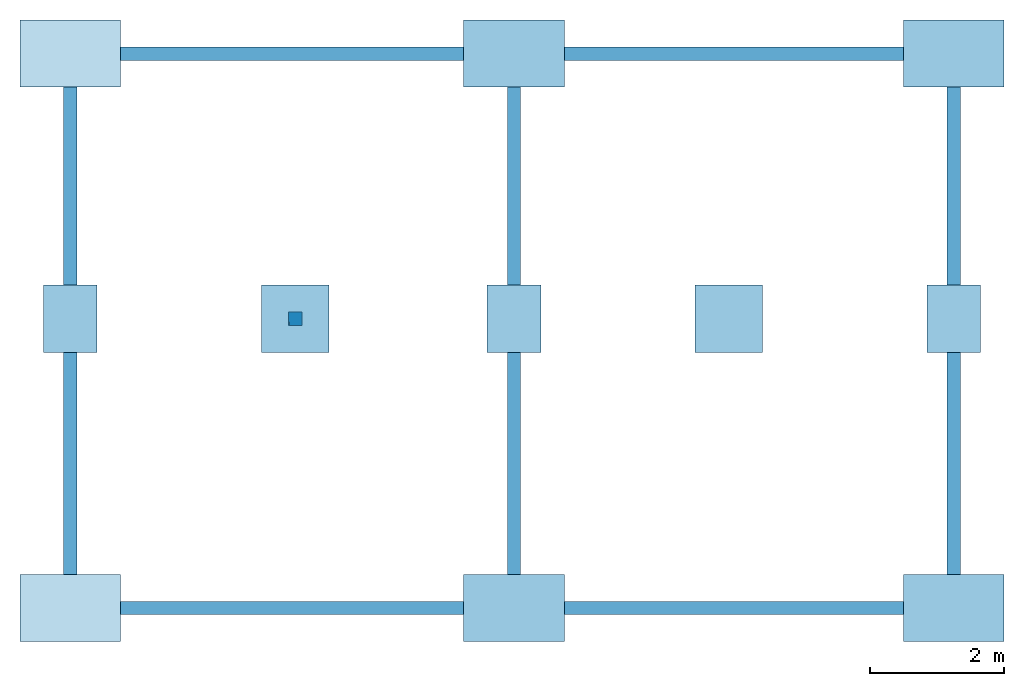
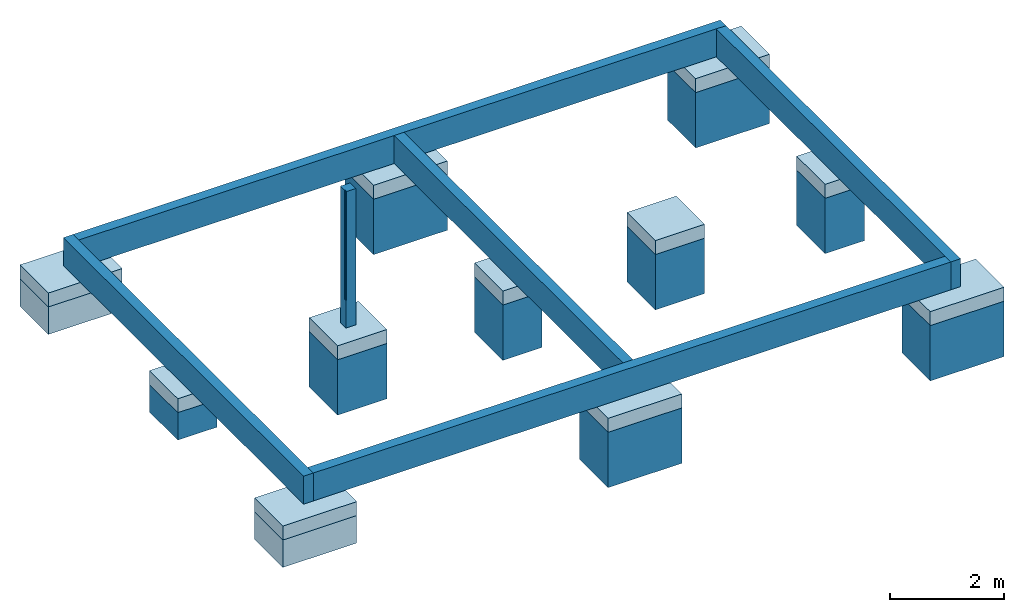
# One storey: 22 slabs, 5 walls, 1 column.
"""IFC2X3 building model written with IfcOpenShell, lengths in millimetres."""

import ifcopenshell
import ifcopenshell.guid

model = None  # the IFC model being written
_history = None  # IfcOwnerHistory: only IFC2X3 demands one
_inside = {}  # id of a spatial element -> (the spatial element, [elements in it])
_under = {}  # id of a project, library or spatial element -> (it, [spatial elements below it])
_declared = {}  # id of a project -> (the project, [libraries it declares])
_typed = {}  # id of a type object -> (the type object, [elements of that type])
_made_of = {}  # id of a material, layer set ... -> (it, [elements and type objects made of it])


def new_model(schema):
    """Start an empty IFC model of exactly this schema.

    Asked for "IFC4X3", IfcOpenShell would pick the latest addendum, in which some entities
    have other attributes; the version numbers below select the first issue.
    IFC2X3 requires an IfcOwnerHistory on every rooted entity: one is made here for all.
    """
    global model, _history
    if schema == "IFC4X3":
        model = ifcopenshell.file(schema_version=(4, 3, 0, 0))
    else:
        model = ifcopenshell.file(schema=schema)
    _inside.clear()
    _under.clear()
    _declared.clear()
    _typed.clear()
    _made_of.clear()
    _history = None
    if model.schema == "IFC2X3":
        org = make("IfcOrganization", Name="unknown")
        user = make(
            "IfcPersonAndOrganization",
            ThePerson=make("IfcPerson", FamilyName="unknown"),
            TheOrganization=org,
        )
        app = make(
            "IfcApplication",
            ApplicationDeveloper=org,
            Version="unknown",
            ApplicationFullName="unknown",
            ApplicationIdentifier="unknown",
        )
        _history = make(
            "IfcOwnerHistory",
            OwningUser=user,
            OwningApplication=app,
            ChangeAction="ADDED",
            CreationDate=0,
        )
    return model


def make(cls, **values):
    """One entity of the class cls with the attributes given. An attribute that is None is left unset."""
    return model.create_entity(
        cls, **{name: value for name, value in values.items() if value is not None}
    )


def entity(cls, *values):
    """Any entity or typed value of the class cls, its attributes in the order of the schema. None: left unset."""
    e = model.create_entity(cls)
    for i, value in enumerate(values):
        if value is not None:
            e[i] = value
    return e


def rooted(cls, **values):
    """An entity with a GlobalId (a new one), such as an element, a storey or a relation."""
    return make(cls, GlobalId=ifcopenshell.guid.new(), OwnerHistory=_history, **values)


def si_unit(unit_type, name, prefix=None):
    """IfcSIUnit, for example si_unit("LENGTHUNIT", "METRE", prefix="MILLI")."""
    return make("IfcSIUnit", UnitType=unit_type, Prefix=prefix, Name=name)


def converted_unit(unit_type, name, factor, base, dimensions=None, offset=None):
    """IfcConversionBasedUnit, such as the inch: factor (a typed value) times the base unit."""
    return make(
        "IfcConversionBasedUnit"
        if offset is None
        else "IfcConversionBasedUnitWithOffset",
        ConversionOffset=offset,
        Dimensions=None
        if dimensions is None
        else entity("IfcDimensionalExponents", *dimensions),
        UnitType=unit_type,
        Name=name,
        ConversionFactor=make(
            "IfcMeasureWithUnit", ValueComponent=factor, UnitComponent=base
        ),
    )


def assignment(units):
    """IfcUnitAssignment: the units of a project."""
    return None if units is None else make("IfcUnitAssignment", Units=units)


def point(xyz):
    """IfcCartesianPoint."""
    return None if xyz is None else make("IfcCartesianPoint", Coordinates=xyz)


def direction(xyz):
    """IfcDirection."""
    return None if xyz is None else make("IfcDirection", DirectionRatios=xyz)


def frame(location, z_axis=None, x_axis=None):
    """IfcAxis2Placement3D, a coordinate frame: its origin and axes. An axis left out is left unset."""
    return make(
        "IfcAxis2Placement3D",
        Location=point(location),
        Axis=direction(z_axis),
        RefDirection=direction(x_axis),
    )


def origin():
    """The frame at (0, 0, 0) with its axes left unset."""
    return frame((0.0, 0.0, 0.0))


def origin_with_axes():
    """The frame at (0, 0, 0) with the z axis (0, 0, 1) and the x axis (1, 0, 0) written out."""
    return frame((0.0, 0.0, 0.0), z_axis=(0.0, 0.0, 1.0), x_axis=(1.0, 0.0, 0.0))


def place(relative_to, where):
    """IfcLocalPlacement: puts the frame where relative to a parent placement (None: the world)."""
    return make(
        "IfcLocalPlacement", PlacementRelTo=relative_to, RelativePlacement=where
    )


def context(
    kind, dimensions, precision=None, world=None, true_north=None, identifier=None
):
    """IfcGeometricRepresentationContext, for example the 3D "Model" context."""
    return make(
        "IfcGeometricRepresentationContext",
        ContextIdentifier=identifier,
        ContextType=kind,
        CoordinateSpaceDimension=dimensions,
        Precision=precision,
        WorldCoordinateSystem=world,
        TrueNorth=true_north,
    )


def project(units=None, contexts=None):
    """IfcProject with its units and contexts."""
    return rooted(
        "IfcProject",
        Name="project",
        RepresentationContexts=contexts,
        UnitsInContext=assignment(units),
    )


def spatial(cls, under=None, at=None, **own):
    """A site, building, storey or space (cls), placed at a placement, below another one or the project."""
    s = rooted(cls, ObjectPlacement=at, **own)
    if under is not None:
        _under.setdefault(under.id(), (under, []))[1].append(s)
    return s


def faces_of(points, faces, orient=None, outer=None):
    """IfcFace entities. A face is a list of loops; a loop is a list of indices into points, from 0.

    orient and outer hold one flag for each loop. By default every Orientation is true, the
    first loop of a face is its IfcFaceOuterBound and the others are IfcFaceBound.
    """
    made = []
    for i, loops in enumerate(faces):
        bounds = []
        for j, loop in enumerate(loops):
            is_outer = j == 0 if outer is None else outer[i][j]
            bounds.append(
                make(
                    "IfcFaceOuterBound" if is_outer else "IfcFaceBound",
                    Bound=make("IfcPolyLoop", Polygon=[points[k] for k in loop]),
                    Orientation=True if orient is None else orient[i][j],
                )
            )
        made.append(make("IfcFace", Bounds=bounds))
    return made


def faceted_brep(points, faces, orient=None, outer=None, voids=None):
    """IfcFacetedBrep: a solid bounded by flat faces; with voids (closed shells), ...WithVoids."""
    shared = [point(p) for p in points]
    hull = make("IfcClosedShell", CfsFaces=faces_of(shared, faces, orient, outer))
    if voids is None:
        return make("IfcFacetedBrep", Outer=hull)
    return make(
        "IfcFacetedBrepWithVoids",
        Outer=hull,
        Voids=[
            make(cls, CfsFaces=faces_of(shared, fs, o, b)) for cls, fs, o, b in voids
        ],
    )


def shape(context_of_items, identifier, shape_type, items):
    """IfcShapeRepresentation: the items that make up one representation, for example the "Body"."""
    return make(
        "IfcShapeRepresentation",
        ContextOfItems=context_of_items,
        RepresentationIdentifier=identifier,
        RepresentationType=shape_type,
        Items=items,
    )


def made_of(thing, what):
    """Note that an element or type object is made of a material, layer set ...; save() writes the relation."""
    if what is not None:
        _made_of.setdefault(what.id(), (what, []))[1].append(thing)
    return thing


def element(
    cls,
    number,
    at=None,
    inside=None,
    cuts=None,
    type_object=None,
    material=None,
    context=None,
    identifier="Body",
    shape_type=None,
    held_by="IfcProductDefinitionShape",
    body=None,
    shapes=None,
    **own,
):
    """One element of the class cls, such as IfcWall. Its Tag is "e" and its number.

    at: its placement. inside: the storey or other place that contains it. cuts: it is an
    opening in that element (IfcRelVoidsElement). A single representation is given by context,
    identifier, shape_type and body (its items); several are given by shapes. held_by: the class
    of the entity that holds the representations. save() writes the other relations.
    """
    e = rooted(cls, Tag="e%d" % number, ObjectPlacement=at, **own)
    if body is not None:
        shapes = [shape(context, identifier, shape_type, body)]
    if shapes is not None:
        e.Representation = make(held_by, Representations=shapes)
    if inside is not None:
        _inside.setdefault(inside.id(), (inside, []))[1].append(e)
    if cuts is not None:
        rooted(
            "IfcRelVoidsElement", RelatingBuildingElement=cuts, RelatedOpeningElement=e
        )
    if type_object is not None:
        _typed.setdefault(type_object.id(), (type_object, []))[1].append(e)
    return made_of(e, material)


def aggregate(whole, parts):
    """IfcRelAggregates: a whole, such as a stair, and the parts it consists of."""
    return rooted("IfcRelAggregates", RelatingObject=whole, RelatedObjects=parts)


def save(model, path):
    """Write the relations noted so far, then the file.

    IfcRelAggregates (storeys below a building ...), IfcRelContainedInSpatialStructure (elements
    in a storey), IfcRelDefinesByType, IfcRelAssociatesMaterial and IfcRelDeclares: one each for
    every whole, place, type object, material and project.
    """
    for whole, parts in _under.values():
        aggregate(whole, parts)
    for where, things in _inside.values():
        rooted(
            "IfcRelContainedInSpatialStructure",
            RelatedElements=things,
            RelatingStructure=where,
        )
    for kind, things in _typed.values():
        rooted("IfcRelDefinesByType", RelatedObjects=things, RelatingType=kind)
    for what, things in _made_of.values():
        rooted("IfcRelAssociatesMaterial", RelatedObjects=things, RelatingMaterial=what)
    for by, libraries in _declared.values():
        rooted("IfcRelDeclares", RelatingContext=by, RelatedDefinitions=libraries)
    model.write(path)


model = new_model("IFC2X3")

# Units and contexts
model_context = context("Model", 3, precision=1e-05, world=origin(), true_north=direction((0.0, 1.0, 0.0)))
ifc_project = project(units=[si_unit("LENGTHUNIT", "METRE", prefix="MILLI"), si_unit("AREAUNIT", "SQUARE_METRE"), si_unit("VOLUMEUNIT", "CUBIC_METRE"), converted_unit("PLANEANGLEUNIT", "DEGREE", entity("IfcPlaneAngleMeasure", 0.01745), si_unit("PLANEANGLEUNIT", "RADIAN"), dimensions=[0, 0, 0, 0, 0, 0, 0]), si_unit("SOLIDANGLEUNIT", "STERADIAN"), si_unit("MASSUNIT", "GRAM"), si_unit("TIMEUNIT", "SECOND"), si_unit("THERMODYNAMICTEMPERATUREUNIT", "DEGREE_CELSIUS"), si_unit("LUMINOUSINTENSITYUNIT", "LUMEN")], contexts=[model_context])

# Site, building, storey
placement = place(None, origin_with_axes())
site_placement = place(placement, frame((11636.08881703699, 2815.7442167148, 4.768371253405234e-06), z_axis=(0.0, 0.0, 1.0), x_axis=(1.0, 0.0, 0.0)))
site = spatial("IfcSite", under=ifc_project, at=site_placement, Name="Surface", CompositionType="ELEMENT")
building_placement = place(placement, origin_with_axes())
building = spatial("IfcBuilding", under=site, at=building_placement, Name="Default Building", CompositionType="ELEMENT")
storey_placement = place(building_placement, origin_with_axes())
storey = spatial("IfcBuildingStorey", under=building, at=storey_placement, Name="soubassement", CompositionType="ELEMENT", Elevation=0.0)

# Column
column_placement = place(storey_placement, frame((11636.08881703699, 2815.7442167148, 4.768371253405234e-06), z_axis=(0.0, 0.0, 1.0), x_axis=(1.0, 0.0, 0.0)))
element("IfcColumn", 1, at=column_placement, inside=storey, Name="IfcColumn - Poteau rectangulaire:200 x 200 mm", context=model_context, shape_type="Brep", body=[
    faceted_brep([(-8251.08881971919, 1564.255782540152, -10.00000476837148), (-8251.08881971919, 1514.255781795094, 2330.00002861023), (-8251.08881971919, 1564.255782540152, 2330.00002861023), (-8251.08881971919, 1514.255781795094, -10.00000476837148), (-8266.088820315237, 1564.255782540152, -10.00000476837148), (-8266.088820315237, 1514.255781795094, -10.00000476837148), (-8266.088820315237, 1564.255782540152, 2330.00002861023), (-8066.088817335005, 1514.255781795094, -610.0000286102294), (-8066.088817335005, 1514.255781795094, 2330.00002861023), (-8266.088820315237, 1514.255781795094, -610.0000286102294), (-8266.088820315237, 1714.255784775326, 2330.00002861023), (-8266.088820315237, 1714.255784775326, -610.0000286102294), (-8066.088817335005, 1714.255784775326, 2330.00002861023), (-8066.088817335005, 1714.255784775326, -610.0000286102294), (-8066.088817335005, 1714.255784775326, -10.00000476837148)], [[[0, 1, 2]], [[0, 3, 1]], [[3, 4, 5]], [[3, 0, 4]], [[0, 6, 4]], [[0, 2, 6]], [[1, 7, 8]], [[3, 7, 1]], [[5, 7, 3]], [[7, 5, 9]], [[6, 10, 4]], [[4, 9, 5]], [[4, 11, 9]], [[11, 4, 10]], [[1, 8, 2]], [[2, 10, 6]], [[8, 10, 2]], [[10, 8, 12]], [[13, 9, 11]], [[13, 7, 9]], [[11, 12, 13]], [[12, 11, 10]], [[13, 8, 7]], [[14, 8, 13]], [[8, 14, 12]]]),
])

# Slabs
slab_1_placement = place(storey_placement, frame((11636.08881703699, 2815.7442167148, 4.768371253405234e-06), z_axis=(0.0, 0.0, 1.0), x_axis=(1.0, 0.0, 0.0)))
element("IfcSlab", 2, at=slab_1_placement, inside=storey, Name="IfcSlab - Base rectangulaire:gros beton 1000mm x 800mm x 1190mm", context=model_context, shape_type="Brep", body=[
    faceted_brep([(2043.911187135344, 1114.2557832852, -899.9999713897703), (1243.911175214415, 2114.2557832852, -899.9999713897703), (1243.911175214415, 1114.2557832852, -899.9999713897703), (2043.911187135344, 2114.2557832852, -899.9999713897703), (1243.911175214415, 1114.2557832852, -2090.000028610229), (2043.911187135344, 2114.2557832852, -2090.000028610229), (2043.911187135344, 1114.2557832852, -2090.000028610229), (1243.911175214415, 2114.2557832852, -2090.000028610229)], [[[0, 1, 2]], [[0, 3, 1]], [[4, 5, 6]], [[4, 7, 5]], [[3, 6, 5]], [[3, 0, 6]], [[1, 5, 7]], [[1, 3, 5]], [[2, 7, 4]], [[2, 1, 7]], [[0, 4, 6]], [[0, 2, 4]]]),
])
slab_2_placement = place(storey_placement, frame((11636.08881703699, 2815.7442167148, 4.768371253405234e-06), z_axis=(0.0, 0.0, 1.0), x_axis=(1.0, 0.0, 0.0)))
element("IfcSlab", 3, at=slab_2_placement, inside=storey, Name="IfcSlab - Base rectangulaire:gros beton 1000mm x 800mm x 1190mm", context=model_context, shape_type="Brep", body=[
    faceted_brep([(-4506.088812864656, 1114.255783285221, -899.9999713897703), (-5306.088824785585, 2114.255783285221, -899.9999713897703), (-5306.088824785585, 1114.255783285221, -899.9999713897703), (-4506.088812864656, 2114.255783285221, -899.9999713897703), (-5306.088824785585, 1114.255783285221, -2090.000028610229), (-4506.088812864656, 2114.255783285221, -2090.000028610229), (-4506.088812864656, 1114.255783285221, -2090.000028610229), (-5306.088824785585, 2114.255783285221, -2090.000028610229)], [[[0, 1, 2]], [[0, 3, 1]], [[4, 5, 6]], [[4, 7, 5]], [[3, 6, 5]], [[3, 0, 6]], [[1, 5, 7]], [[1, 3, 5]], [[2, 7, 4]], [[2, 1, 7]], [[0, 4, 6]], [[0, 2, 4]]]),
])
slab_3_placement = place(storey_placement, frame((11636.08881703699, 2815.7442167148, 4.768371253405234e-06), z_axis=(0.0, 0.0, 1.0), x_axis=(1.0, 0.0, 0.0)))
element("IfcSlab", 4, at=slab_3_placement, inside=storey, Name="IfcSlab - Base rectangulaire:gros beton 1000mm x 800mm x 590mm", context=model_context, shape_type="Brep", body=[
    faceted_brep([(-11116.08881286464, 1114.255783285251, -900.0000131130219), (-11916.08882478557, 2114.25578328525, -900.0000131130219), (-11916.08882478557, 1114.255783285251, -900.0000131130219), (-11116.08881286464, 2114.25578328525, -900.0000131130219), (-11916.08882478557, 1114.255783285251, -1489.999986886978), (-11116.08881286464, 2114.25578328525, -1489.999986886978), (-11116.08881286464, 1114.255783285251, -1489.999986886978), (-11916.08882478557, 2114.25578328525, -1489.999986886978)], [[[0, 1, 2]], [[0, 3, 1]], [[4, 5, 6]], [[4, 7, 5]], [[3, 6, 5]], [[3, 0, 6]], [[1, 5, 7]], [[1, 3, 5]], [[2, 7, 4]], [[2, 1, 7]], [[0, 4, 6]], [[0, 2, 4]]]),
])
slab_4_placement = place(storey_placement, frame((11636.08881703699, 2815.7442167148, 4.768371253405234e-06), z_axis=(0.0, 0.0, 1.0), x_axis=(1.0, 0.0, 0.0)))
element("IfcSlab", 5, at=slab_4_placement, inside=storey, Name="IfcSlab - Base rectangulaire:gros beton 1500mm x 1000mm x 1190mm", context=model_context, shape_type="Brep", body=[
    faceted_brep([(2393.91118117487, -3195.74421671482, -899.9999713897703), (893.9111811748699, -2195.74421671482, -899.9999713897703), (893.9111811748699, -3195.74421671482, -899.9999713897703), (2393.91118117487, -2195.74421671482, -899.9999713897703), (893.9111811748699, -3195.74421671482, -2090.000028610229), (2393.91118117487, -2195.74421671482, -2090.000028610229), (2393.91118117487, -3195.74421671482, -2090.000028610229), (893.9111811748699, -2195.74421671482, -2090.000028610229)], [[[0, 1, 2]], [[0, 3, 1]], [[4, 5, 6]], [[4, 7, 5]], [[3, 6, 5]], [[3, 0, 6]], [[1, 5, 7]], [[1, 3, 5]], [[2, 7, 4]], [[2, 1, 7]], [[0, 4, 6]], [[0, 2, 4]]]),
])
slab_5_placement = place(storey_placement, frame((11636.08881703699, 2815.7442167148, 4.768371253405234e-06), z_axis=(0.0, 0.0, 1.0), x_axis=(1.0, 0.0, 0.0)))
element("IfcSlab", 6, at=slab_5_placement, inside=storey, Name="IfcSlab - Base rectangulaire:gros beton 1500mm x 1000mm x 590mm", context=model_context, shape_type="Brep", body=[
    faceted_brep([(-10766.0888188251, -3195.74421671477, -900.0000131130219), (-12266.0888188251, -2195.74421671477, -900.0000131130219), (-12266.0888188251, -3195.74421671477, -900.0000131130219), (-10766.0888188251, -2195.74421671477, -900.0000131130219), (-12266.0888188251, -3195.74421671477, -1489.999986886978), (-10766.0888188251, -2195.74421671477, -1489.999986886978), (-10766.0888188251, -3195.74421671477, -1489.999986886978), (-12266.0888188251, -2195.74421671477, -1489.999986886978)], [[[0, 1, 2]], [[0, 3, 1]], [[4, 5, 6]], [[4, 7, 5]], [[3, 6, 5]], [[3, 0, 6]], [[1, 5, 7]], [[1, 3, 5]], [[2, 7, 4]], [[2, 1, 7]], [[0, 4, 6]], [[0, 2, 4]]]),
])
slab_6_placement = place(storey_placement, frame((11636.08881703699, 2815.7442167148, 4.768371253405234e-06), z_axis=(0.0, 0.0, 1.0), x_axis=(1.0, 0.0, 0.0)))
element("IfcSlab", 7, at=slab_6_placement, inside=storey, Name="IfcSlab - Base rectangulaire:gros beton 1500mm x 1000mm x 1190mm", context=model_context, shape_type="Brep", body=[
    faceted_brep([(-4156.088818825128, -3195.7442167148, -899.9999713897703), (-5656.088818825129, -2195.7442167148, -899.9999713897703), (-5656.088818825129, -3195.7442167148, -899.9999713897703), (-4156.088818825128, -2195.7442167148, -899.9999713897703), (-5656.088818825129, -3195.7442167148, -2090.000028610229), (-4156.088818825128, -2195.7442167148, -2090.000028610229), (-4156.088818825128, -3195.7442167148, -2090.000028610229), (-5656.088818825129, -2195.7442167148, -2090.000028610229)], [[[0, 1, 2]], [[0, 3, 1]], [[4, 5, 6]], [[4, 7, 5]], [[3, 6, 5]], [[3, 0, 6]], [[1, 5, 7]], [[1, 3, 5]], [[2, 7, 4]], [[2, 1, 7]], [[0, 4, 6]], [[0, 2, 4]]]),
])
slab_7_placement = place(storey_placement, frame((11636.08881703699, 2815.7442167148, 4.768371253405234e-06), z_axis=(0.0, 0.0, 1.0), x_axis=(1.0, 0.0, 0.0)))
element("IfcSlab", 8, at=slab_7_placement, inside=storey, Name="IfcSlab - Base rectangulaire:gros beton 1500mm x 1000mm x 1190mm", context=model_context, shape_type="Brep", body=[
    faceted_brep([(2393.911181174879, 5064.255783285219, -899.9999713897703), (893.9111811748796, 6064.255783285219, -899.9999713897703), (893.9111811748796, 5064.255783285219, -899.9999713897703), (2393.911181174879, 6064.255783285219, -899.9999713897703), (893.9111811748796, 5064.255783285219, -2090.000028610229), (2393.911181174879, 6064.255783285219, -2090.000028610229), (2393.911181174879, 5064.255783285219, -2090.000028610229), (893.9111811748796, 6064.255783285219, -2090.000028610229)], [[[0, 1, 2]], [[0, 3, 1]], [[4, 5, 6]], [[4, 7, 5]], [[3, 6, 5]], [[3, 0, 6]], [[1, 5, 7]], [[1, 3, 5]], [[2, 7, 4]], [[2, 1, 7]], [[0, 4, 6]], [[0, 2, 4]]]),
])
slab_8_placement = place(storey_placement, frame((11636.08881703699, 2815.7442167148, 4.768371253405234e-06), z_axis=(0.0, 0.0, 1.0), x_axis=(1.0, 0.0, 0.0)))
element("IfcSlab", 9, at=slab_8_placement, inside=storey, Name="IfcSlab - Base rectangulaire:gros beton 1500mm x 1000mm x 1190mm", context=model_context, shape_type="Brep", body=[
    faceted_brep([(-4156.08881882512, 5064.25578328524, -899.9999713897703), (-5656.08881882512, 6064.25578328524, -899.9999713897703), (-5656.08881882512, 5064.25578328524, -899.9999713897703), (-4156.08881882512, 6064.25578328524, -899.9999713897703), (-5656.08881882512, 5064.25578328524, -2090.000028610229), (-4156.08881882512, 6064.25578328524, -2090.000028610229), (-4156.08881882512, 5064.25578328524, -2090.000028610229), (-5656.08881882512, 6064.25578328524, -2090.000028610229)], [[[0, 1, 2]], [[0, 3, 1]], [[4, 5, 6]], [[4, 7, 5]], [[3, 6, 5]], [[3, 0, 6]], [[1, 5, 7]], [[1, 3, 5]], [[2, 7, 4]], [[2, 1, 7]], [[0, 4, 6]], [[0, 2, 4]]]),
])
slab_9_placement = place(storey_placement, frame((11636.08881703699, 2815.7442167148, 4.768371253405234e-06), z_axis=(0.0, 0.0, 1.0), x_axis=(1.0, 0.0, 0.0)))
element("IfcSlab", 10, at=slab_9_placement, inside=storey, Name="IfcSlab - Base rectangulaire:gros beton 1500mm x 1000mm x 590mm", context=model_context, shape_type="Brep", body=[
    faceted_brep([(-10766.0888188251, 5064.255783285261, -900.0000131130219), (-12266.0888188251, 6064.255783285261, -900.0000131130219), (-12266.0888188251, 5064.255783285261, -900.0000131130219), (-10766.0888188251, 6064.255783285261, -900.0000131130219), (-12266.0888188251, 5064.255783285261, -1489.999986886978), (-10766.0888188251, 6064.255783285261, -1489.999986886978), (-10766.0888188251, 5064.255783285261, -1489.999986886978), (-12266.0888188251, 6064.255783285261, -1489.999986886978)], [[[0, 1, 2]], [[0, 3, 1]], [[4, 5, 6]], [[4, 7, 5]], [[3, 6, 5]], [[3, 0, 6]], [[1, 5, 7]], [[1, 3, 5]], [[2, 7, 4]], [[2, 1, 7]], [[0, 4, 6]], [[0, 2, 4]]]),
])
slab_10_placement = place(storey_placement, frame((11636.08881703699, 2815.7442167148, 4.768371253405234e-06), z_axis=(0.0, 0.0, 1.0), x_axis=(1.0, 0.0, 0.0)))
element("IfcSlab", 11, at=slab_10_placement, inside=storey, Name="IfcSlab - Base rectangulaire:gros beton 1000mm x 1000mm x 1190mm", context=model_context, shape_type="Brep", body=[
    faceted_brep([(-1206.08881882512, 2114.25578328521, -899.9999713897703), (-2206.08881882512, 1114.25578328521, -899.9999713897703), (-1206.08881882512, 1114.25578328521, -899.9999713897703), (-2206.08881882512, 2114.25578328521, -899.9999713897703), (-1206.08881882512, 1114.25578328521, -2090.000028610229), (-2206.08881882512, 2114.25578328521, -2090.000028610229), (-1206.08881882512, 2114.25578328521, -2090.000028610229), (-2206.08881882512, 1114.25578328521, -2090.000028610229)], [[[0, 1, 2]], [[0, 3, 1]], [[4, 5, 6]], [[4, 7, 5]], [[3, 6, 5]], [[3, 0, 6]], [[1, 5, 7]], [[1, 3, 5]], [[2, 7, 4]], [[2, 1, 7]], [[0, 4, 6]], [[0, 2, 4]]]),
])
slab_11_placement = place(storey_placement, frame((11636.08881703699, 2815.7442167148, 4.768371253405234e-06), z_axis=(0.0, 0.0, 1.0), x_axis=(1.0, 0.0, 0.0)))
element("IfcSlab", 12, at=slab_11_placement, inside=storey, Name="IfcSlab - Base rectangulaire:gros beton 1000mm x 1000mm x 1190mm", context=model_context, shape_type="Brep", body=[
    faceted_brep([(-7666.088818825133, 2114.25578328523, -899.9999713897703), (-8666.088818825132, 1114.255783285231, -899.9999713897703), (-7666.088818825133, 1114.255783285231, -899.9999713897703), (-8666.088818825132, 2114.25578328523, -899.9999713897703), (-7666.088818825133, 1114.255783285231, -2090.000028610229), (-8666.088818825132, 2114.25578328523, -2090.000028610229), (-7666.088818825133, 2114.25578328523, -2090.000028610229), (-8666.088818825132, 1114.255783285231, -2090.000028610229)], [[[0, 1, 2]], [[0, 3, 1]], [[4, 5, 6]], [[4, 7, 5]], [[3, 6, 5]], [[3, 0, 6]], [[1, 5, 7]], [[1, 3, 5]], [[2, 7, 4]], [[2, 1, 7]], [[0, 4, 6]], [[0, 2, 4]]]),
])
slab_12_placement = place(storey_placement, frame((11636.08881703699, 2815.7442167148, 4.768371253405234e-06), z_axis=(0.0, 0.0, 1.0), x_axis=(1.0, 0.0, 0.0)))
element("IfcSlab", 13, at=slab_12_placement, inside=storey, Name="IfcSlab - Base rectangulaire:1000mm x 1000mm x 300mm", context=model_context, shape_type="Brep", body=[
    faceted_brep([(-1206.08881882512, 2114.25578328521, -599.9999940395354), (-2206.08881882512, 1114.25578328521, -599.9999940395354), (-1206.08881882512, 1114.25578328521, -599.9999940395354), (-2206.08881882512, 2114.25578328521, -599.9999940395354), (-1206.08881882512, 1114.25578328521, -900.0000059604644), (-2206.08881882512, 2114.25578328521, -900.0000059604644), (-1206.08881882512, 2114.25578328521, -900.0000059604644), (-2206.08881882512, 1114.25578328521, -900.0000059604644)], [[[0, 1, 2]], [[0, 3, 1]], [[4, 5, 6]], [[4, 7, 5]], [[3, 6, 5]], [[3, 0, 6]], [[1, 5, 7]], [[1, 3, 5]], [[2, 7, 4]], [[2, 1, 7]], [[0, 4, 6]], [[0, 2, 4]]]),
])
slab_13_placement = place(storey_placement, frame((11636.08881703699, 2815.7442167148, 4.768371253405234e-06), z_axis=(0.0, 0.0, 1.0), x_axis=(1.0, 0.0, 0.0)))
element("IfcSlab", 14, at=slab_13_placement, inside=storey, Name="IfcSlab - Base rectangulaire:1000mm x 1000mm x 300mm", context=model_context, shape_type="Brep", body=[
    faceted_brep([(-7666.088818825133, 2114.25578328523, -599.9999940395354), (-8666.088818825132, 1114.255783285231, -599.9999940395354), (-7666.088818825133, 1114.255783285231, -599.9999940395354), (-8666.088818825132, 2114.25578328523, -599.9999940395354), (-7666.088818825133, 1114.255783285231, -900.0000059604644), (-8666.088818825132, 2114.25578328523, -900.0000059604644), (-7666.088818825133, 2114.25578328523, -900.0000059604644), (-8666.088818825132, 1114.255783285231, -900.0000059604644)], [[[0, 1, 2]], [[0, 3, 1]], [[4, 5, 6]], [[4, 7, 5]], [[3, 6, 5]], [[3, 0, 6]], [[1, 5, 7]], [[1, 3, 5]], [[2, 7, 4]], [[2, 1, 7]], [[0, 4, 6]], [[0, 2, 4]]]),
])
slab_14_placement = place(storey_placement, frame((11636.08881703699, 2815.7442167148, 4.768371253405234e-06), z_axis=(0.0, 0.0, 1.0), x_axis=(1.0, 0.0, 0.0)))
element("IfcSlab", 15, at=slab_14_placement, inside=storey, Name="IfcSlab - Base rectangulaire:800mm x 1000mm x 300mm", context=model_context, shape_type="Brep", body=[
    faceted_brep([(2043.911187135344, 1114.2557832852, -599.9999940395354), (1243.911175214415, 2114.2557832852, -599.9999940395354), (1243.911175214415, 1114.2557832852, -599.9999940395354), (2043.911187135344, 2114.2557832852, -599.9999940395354), (1243.911175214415, 1114.2557832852, -900.0000059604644), (2043.911187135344, 2114.2557832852, -900.0000059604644), (2043.911187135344, 1114.2557832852, -900.0000059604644), (1243.911175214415, 2114.2557832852, -900.0000059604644)], [[[0, 1, 2]], [[0, 3, 1]], [[4, 5, 6]], [[4, 7, 5]], [[3, 6, 5]], [[3, 0, 6]], [[1, 5, 7]], [[1, 3, 5]], [[2, 7, 4]], [[2, 1, 7]], [[0, 4, 6]], [[0, 2, 4]]]),
])
slab_15_placement = place(storey_placement, frame((11636.08881703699, 2815.7442167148, 4.768371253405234e-06), z_axis=(0.0, 0.0, 1.0), x_axis=(1.0, 0.0, 0.0)))
element("IfcSlab", 16, at=slab_15_placement, inside=storey, Name="IfcSlab - Base rectangulaire:800mm x 1000mm x 300mm", context=model_context, shape_type="Brep", body=[
    faceted_brep([(-4506.088812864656, 1114.25578328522, -599.9999940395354), (-5306.088824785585, 2114.25578328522, -599.9999940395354), (-5306.088824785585, 1114.25578328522, -599.9999940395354), (-4506.088812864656, 2114.25578328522, -599.9999940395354), (-5306.088824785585, 1114.25578328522, -900.0000059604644), (-4506.088812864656, 2114.25578328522, -900.0000059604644), (-4506.088812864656, 1114.25578328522, -900.0000059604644), (-5306.088824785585, 2114.25578328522, -900.0000059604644)], [[[0, 1, 2]], [[0, 3, 1]], [[4, 5, 6]], [[4, 7, 5]], [[3, 6, 5]], [[3, 0, 6]], [[1, 5, 7]], [[1, 3, 5]], [[2, 7, 4]], [[2, 1, 7]], [[0, 4, 6]], [[0, 2, 4]]]),
])
slab_16_placement = place(storey_placement, frame((11636.08881703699, 2815.7442167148, 4.768371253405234e-06), z_axis=(0.0, 0.0, 1.0), x_axis=(1.0, 0.0, 0.0)))
element("IfcSlab", 17, at=slab_16_placement, inside=storey, Name="IfcSlab - Base rectangulaire:800mm x 1000mm x 300mm", context=model_context, shape_type="Brep", body=[
    faceted_brep([(-11116.08881286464, 1114.255783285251, -599.9999940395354), (-11916.08882478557, 2114.25578328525, -599.9999940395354), (-11916.08882478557, 1114.255783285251, -599.9999940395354), (-11116.08881286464, 2114.25578328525, -599.9999940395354), (-11916.08882478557, 1114.255783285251, -900.0000059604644), (-11116.08881286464, 2114.25578328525, -900.0000059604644), (-11116.08881286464, 1114.255783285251, -900.0000059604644), (-11916.08882478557, 2114.25578328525, -900.0000059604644)], [[[0, 1, 2]], [[0, 3, 1]], [[4, 5, 6]], [[4, 7, 5]], [[3, 6, 5]], [[3, 0, 6]], [[1, 5, 7]], [[1, 3, 5]], [[2, 7, 4]], [[2, 1, 7]], [[0, 4, 6]], [[0, 2, 4]]]),
])
slab_17_placement = place(storey_placement, frame((11636.08881703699, 2815.7442167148, 4.768371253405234e-06), z_axis=(0.0, 0.0, 1.0), x_axis=(1.0, 0.0, 0.0)))
element("IfcSlab", 18, at=slab_17_placement, inside=storey, Name="IfcSlab - Base rectangulaire:1500mm x 1000mm x 300mm", context=model_context, shape_type="Brep", body=[
    faceted_brep([(2393.911181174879, 5064.255783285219, -599.9999940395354), (893.9111811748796, 6064.255783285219, -599.9999940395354), (893.9111811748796, 5064.255783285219, -599.9999940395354), (2393.911181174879, 6064.255783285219, -599.9999940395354), (893.9111811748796, 5064.255783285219, -900.0000059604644), (2393.911181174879, 6064.255783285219, -900.0000059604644), (2393.911181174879, 5064.255783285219, -900.0000059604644), (893.9111811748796, 6064.255783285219, -900.0000059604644)], [[[0, 1, 2]], [[0, 3, 1]], [[4, 5, 6]], [[4, 7, 5]], [[3, 6, 5]], [[3, 0, 6]], [[1, 5, 7]], [[1, 3, 5]], [[2, 7, 4]], [[2, 1, 7]], [[0, 4, 6]], [[0, 2, 4]]]),
])
slab_18_placement = place(storey_placement, frame((11636.08881703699, 2815.7442167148, 4.768371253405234e-06), z_axis=(0.0, 0.0, 1.0), x_axis=(1.0, 0.0, 0.0)))
element("IfcSlab", 19, at=slab_18_placement, inside=storey, Name="IfcSlab - Base rectangulaire:1500mm x 1000mm x 300mm", context=model_context, shape_type="Brep", body=[
    faceted_brep([(-4156.08881882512, 5064.25578328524, -599.9999940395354), (-5656.08881882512, 6064.25578328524, -599.9999940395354), (-5656.08881882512, 5064.25578328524, -599.9999940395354), (-4156.08881882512, 6064.25578328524, -599.9999940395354), (-5656.08881882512, 5064.25578328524, -900.0000059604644), (-4156.08881882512, 6064.25578328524, -900.0000059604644), (-4156.08881882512, 5064.25578328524, -900.0000059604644), (-5656.08881882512, 6064.25578328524, -900.0000059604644)], [[[0, 1, 2]], [[0, 3, 1]], [[4, 5, 6]], [[4, 7, 5]], [[3, 6, 5]], [[3, 0, 6]], [[1, 5, 7]], [[1, 3, 5]], [[2, 7, 4]], [[2, 1, 7]], [[0, 4, 6]], [[0, 2, 4]]]),
])
slab_19_placement = place(storey_placement, frame((11636.08881703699, 2815.7442167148, 4.768371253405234e-06), z_axis=(0.0, 0.0, 1.0), x_axis=(1.0, 0.0, 0.0)))
element("IfcSlab", 20, at=slab_19_placement, inside=storey, Name="IfcSlab - Base rectangulaire:1500mm x 1000mm x 300mm", context=model_context, shape_type="Brep", body=[
    faceted_brep([(-10766.0888188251, 5064.255783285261, -599.9999940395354), (-12266.0888188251, 6064.255783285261, -599.9999940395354), (-12266.0888188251, 5064.255783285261, -599.9999940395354), (-10766.0888188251, 6064.255783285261, -599.9999940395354), (-12266.0888188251, 5064.255783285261, -900.0000059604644), (-10766.0888188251, 6064.255783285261, -900.0000059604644), (-10766.0888188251, 5064.255783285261, -900.0000059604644), (-12266.0888188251, 6064.255783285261, -900.0000059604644)], [[[0, 1, 2]], [[0, 3, 1]], [[4, 5, 6]], [[4, 7, 5]], [[3, 6, 5]], [[3, 0, 6]], [[1, 5, 7]], [[1, 3, 5]], [[2, 7, 4]], [[2, 1, 7]], [[0, 4, 6]], [[0, 2, 4]]]),
])
slab_20_placement = place(storey_placement, frame((11636.08881703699, 2815.7442167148, 4.768371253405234e-06), z_axis=(0.0, 0.0, 1.0), x_axis=(1.0, 0.0, 0.0)))
element("IfcSlab", 21, at=slab_20_placement, inside=storey, Name="IfcSlab - Base rectangulaire:1500mm x 1000mm x 300mm", context=model_context, shape_type="Brep", body=[
    faceted_brep([(-10766.0888188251, -3195.74421671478, -599.9999940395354), (-12266.0888188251, -2195.74421671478, -599.9999940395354), (-12266.0888188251, -3195.74421671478, -599.9999940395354), (-10766.0888188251, -2195.74421671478, -599.9999940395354), (-12266.0888188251, -3195.74421671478, -900.0000059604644), (-10766.0888188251, -2195.74421671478, -900.0000059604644), (-10766.0888188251, -3195.74421671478, -900.0000059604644), (-12266.0888188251, -2195.74421671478, -900.0000059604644)], [[[0, 1, 2]], [[0, 3, 1]], [[4, 5, 6]], [[4, 7, 5]], [[3, 6, 5]], [[3, 0, 6]], [[1, 5, 7]], [[1, 3, 5]], [[2, 7, 4]], [[2, 1, 7]], [[0, 4, 6]], [[0, 2, 4]]]),
])
slab_21_placement = place(storey_placement, frame((11636.08881703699, 2815.7442167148, 4.768371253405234e-06), z_axis=(0.0, 0.0, 1.0), x_axis=(1.0, 0.0, 0.0)))
element("IfcSlab", 22, at=slab_21_placement, inside=storey, Name="IfcSlab - Base rectangulaire:1500mm x 1000mm x 300mm", context=model_context, shape_type="Brep", body=[
    faceted_brep([(2393.91118117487, -3195.74421671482, -599.9999940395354), (893.9111811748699, -2195.74421671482, -599.9999940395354), (893.9111811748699, -3195.74421671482, -599.9999940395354), (2393.91118117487, -2195.74421671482, -599.9999940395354), (893.9111811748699, -3195.74421671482, -900.0000059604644), (2393.91118117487, -2195.74421671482, -900.0000059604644), (2393.91118117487, -3195.74421671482, -900.0000059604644), (893.9111811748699, -2195.74421671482, -900.0000059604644)], [[[0, 1, 2]], [[0, 3, 1]], [[4, 5, 6]], [[4, 7, 5]], [[3, 6, 5]], [[3, 0, 6]], [[1, 5, 7]], [[1, 3, 5]], [[2, 7, 4]], [[2, 1, 7]], [[0, 4, 6]], [[0, 2, 4]]]),
])
slab_22_placement = place(storey_placement, frame((11636.08881703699, 2815.7442167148, 4.768371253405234e-06), z_axis=(0.0, 0.0, 1.0), x_axis=(1.0, 0.0, 0.0)))
element("IfcSlab", 23, at=slab_22_placement, inside=storey, Name="IfcSlab - Base rectangulaire:1500mm x 1000mm x 300mm", context=model_context, shape_type="Brep", body=[
    faceted_brep([(-4156.088818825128, -3195.7442167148, -599.9999940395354), (-5656.088818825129, -2195.7442167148, -599.9999940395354), (-5656.088818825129, -3195.7442167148, -599.9999940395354), (-4156.088818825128, -2195.7442167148, -599.9999940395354), (-5656.088818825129, -3195.7442167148, -900.0000059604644), (-4156.088818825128, -2195.7442167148, -900.0000059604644), (-4156.088818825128, -3195.7442167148, -900.0000059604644), (-5656.088818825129, -2195.7442167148, -900.0000059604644)], [[[0, 1, 2]], [[0, 3, 1]], [[4, 5, 6]], [[4, 7, 5]], [[3, 6, 5]], [[3, 0, 6]], [[1, 5, 7]], [[1, 3, 5]], [[2, 7, 4]], [[2, 1, 7]], [[0, 4, 6]], [[0, 2, 4]]]),
])

# Walls
wall_1_placement = place(storey_placement, frame((11636.08881703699, 2815.7442167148, 4.768371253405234e-06), z_axis=(0.0, 0.0, 1.0), x_axis=(1.0, 0.0, 0.0)))
element("IfcWallStandardCase", 24, at=wall_1_placement, inside=storey, Name="IfcWallStandardCase - Mur de base:Ext. longrine 20 x 60", context=model_context, shape_type="Brep", body=[
    faceted_brep([(-4806.088817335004, -2595.744426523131, 1.192092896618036e-05), (-5006.088820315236, 5464.255993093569, 1.192092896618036e-05), (-5006.088820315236, -2595.744426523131, 1.192092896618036e-05), (-4806.088817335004, 5464.255993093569, 1.192092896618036e-05), (-5006.088820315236, -2595.744426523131, -600.000011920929), (-4806.088817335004, 5464.255993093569, -600.000011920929), (-4806.088817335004, -2595.744426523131, -600.000011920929), (-5006.088820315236, 5464.255993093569, -600.000011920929)], [[[0, 1, 2]], [[0, 3, 1]], [[4, 5, 6]], [[4, 7, 5]], [[3, 6, 5]], [[3, 0, 6]], [[1, 5, 7]], [[1, 3, 5]], [[2, 7, 4]], [[2, 1, 7]], [[0, 4, 6]], [[0, 2, 4]]]),
])
wall_2_placement = place(storey_placement, frame((11636.08881703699, 2815.7442167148, 4.768371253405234e-06), z_axis=(0.0, 0.0, 1.0), x_axis=(1.0, 0.0, 0.0)))
element("IfcWallStandardCase", 25, at=wall_2_placement, inside=storey, Name="IfcWallStandardCase - Mur de base:Ext. longrine 20 x 60", context=model_context, shape_type="Brep", body=[
    faceted_brep([(-11416.08883789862, -2795.744218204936, 1.192092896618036e-05), (1543.911200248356, -2595.744215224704, 1.192092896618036e-05), (-11416.08883789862, -2595.744215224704, 1.192092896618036e-05), (1543.911200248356, -2795.744218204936, 1.192092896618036e-05), (-11416.08883789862, -2595.744215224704, -600.000011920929), (1543.911200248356, -2795.744218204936, -600.000011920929), (-11416.08883789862, -2795.744218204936, -600.000011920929), (1543.911200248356, -2595.744215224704, -600.000011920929)], [[[0, 1, 2]], [[0, 3, 1]], [[4, 5, 6]], [[4, 7, 5]], [[3, 6, 5]], [[3, 0, 6]], [[1, 5, 7]], [[1, 3, 5]], [[2, 7, 4]], [[2, 1, 7]], [[0, 4, 6]], [[0, 2, 4]]]),
])
wall_3_placement = place(storey_placement, frame((11636.08881703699, 2815.7442167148, 4.768371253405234e-06), z_axis=(0.0, 0.0, 1.0), x_axis=(1.0, 0.0, 0.0)))
element("IfcWallStandardCase", 26, at=wall_3_placement, inside=storey, Name="IfcWallStandardCase - Mur de base:Ext. longrine 20 x 60", context=model_context, shape_type="Brep", body=[
    faceted_brep([(1743.911182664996, -2795.744331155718, 1.192092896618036e-05), (1543.911179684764, 5464.255897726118, 1.192092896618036e-05), (1543.911179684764, -2795.744331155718, 1.192092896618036e-05), (1743.911182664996, 5464.255897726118, 1.192092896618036e-05), (1543.911179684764, -2795.744331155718, -600.000011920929), (1743.911182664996, 5464.255897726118, -600.000011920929), (1743.911182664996, -2795.744331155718, -600.000011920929), (1543.911179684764, 5464.255897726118, -600.000011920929)], [[[0, 1, 2]], [[0, 3, 1]], [[4, 5, 6]], [[4, 7, 5]], [[3, 6, 5]], [[3, 0, 6]], [[1, 5, 7]], [[1, 3, 5]], [[2, 7, 4]], [[2, 1, 7]], [[0, 4, 6]], [[0, 2, 4]]]),
])
wall_4_placement = place(storey_placement, frame((11636.08881703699, 2815.7442167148, 4.768371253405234e-06), z_axis=(0.0, 0.0, 1.0), x_axis=(1.0, 0.0, 0.0)))
element("IfcWallStandardCase", 27, at=wall_4_placement, inside=storey, Name="IfcWallStandardCase - Mur de base:Ext. longrine 20 x 60", context=model_context, shape_type="Brep", body=[
    faceted_brep([(1743.911104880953, 5664.255784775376, 1.192092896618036e-05), (-11416.08874253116, 5464.255781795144, 1.192092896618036e-05), (1743.911104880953, 5464.255781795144, 1.192092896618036e-05), (-11416.08874253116, 5664.255784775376, 1.192092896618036e-05), (1743.911104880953, 5464.255781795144, -600.000011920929), (-11416.08874253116, 5664.255784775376, -600.000011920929), (1743.911104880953, 5664.255784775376, -600.000011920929), (-11416.08874253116, 5464.255781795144, -600.000011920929)], [[[0, 1, 2]], [[0, 3, 1]], [[4, 5, 6]], [[4, 7, 5]], [[3, 6, 5]], [[3, 0, 6]], [[1, 5, 7]], [[1, 3, 5]], [[2, 7, 4]], [[2, 1, 7]], [[0, 4, 6]], [[0, 2, 4]]]),
])
wall_5_placement = place(storey_placement, frame((11636.08881703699, 2815.7442167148, 4.768371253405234e-06), z_axis=(0.0, 0.0, 1.0), x_axis=(1.0, 0.0, 0.0)))
element("IfcWallStandardCase", 28, at=wall_5_placement, inside=storey, Name="IfcWallStandardCase - Mur de base:Ext. longrine 20 x 60", context=model_context, shape_type="Brep", body=[
    faceted_brep([(-11616.08882031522, 5664.255802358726, 1.192092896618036e-05), (-11416.08881733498, -2795.744235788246, 1.192092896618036e-05), (-11416.08881733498, 5664.255802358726, 1.192092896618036e-05), (-11616.08882031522, -2795.744235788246, 1.192092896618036e-05), (-11416.08881733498, 5664.255802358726, -600.000011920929), (-11616.08882031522, -2795.744235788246, -600.000011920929), (-11616.08882031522, 5664.255802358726, -600.000011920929), (-11416.08881733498, -2795.744235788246, -600.000011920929)], [[[0, 1, 2]], [[0, 3, 1]], [[4, 5, 6]], [[4, 7, 5]], [[3, 6, 5]], [[3, 0, 6]], [[1, 5, 7]], [[1, 3, 5]], [[2, 7, 4]], [[2, 1, 7]], [[0, 4, 6]], [[0, 2, 4]]]),
])

save(model, "model.ifc")
